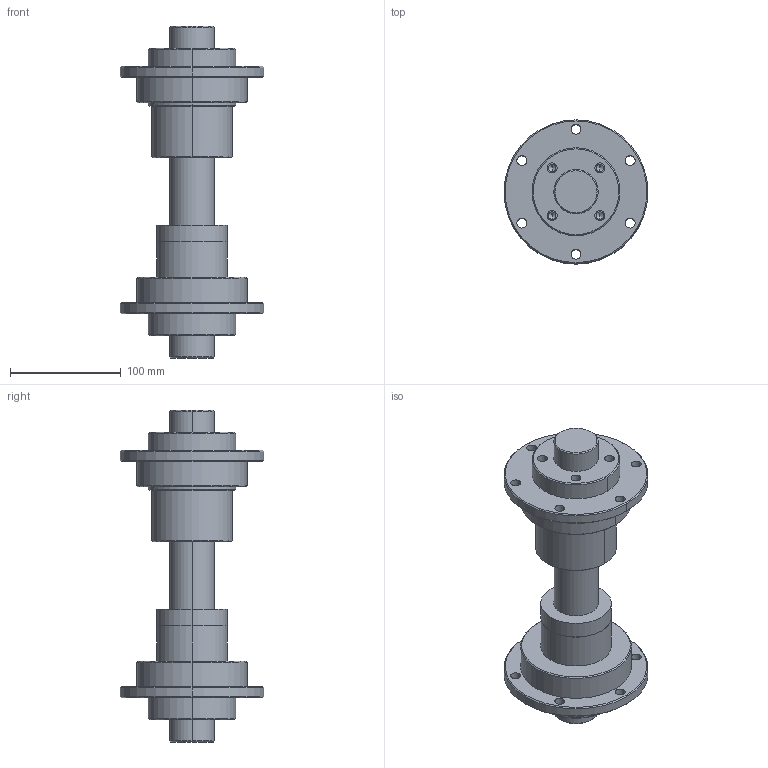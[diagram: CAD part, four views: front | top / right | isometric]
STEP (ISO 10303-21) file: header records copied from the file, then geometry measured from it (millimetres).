
FILE_DESCRIPTION (( 'STEP AP203' ), '1' );
FILE_NAME ('RSSY4040.STEP', '2014-11-13T05:22:41', ( '' ), ( '' ), 'SwSTEP 2.0', 'SolidWorks 2014', '' );
FILE_SCHEMA (( 'CONFIG_CONTROL_DESIGN' ));
Length unit declared in the file: millimetre
Products named in the file (4): SC40; RFSY4040; RLSF40; RSSY4040
Assembly tree (3 placements, depth 2):
  RSSY4040
    SC40
    RFSY4040
    RLSF40
Bounding box: 130 x 130 x 300 mm (x, y, z)
Volume: 1274731.8 mm3; surface area: 180072 mm2
Topology: 4 solids, 4 shells, 175 faces, 418 edges, 254 vertices
Faces by surface type: cylinder 110, cone 44, plane 21
Entity records: 5476 total; most frequent: DIRECTION 1004, CARTESIAN_POINT 833, ORIENTED_EDGE 796, AXIS2_PLACEMENT_3D 425, EDGE_CURVE 398, VERTEX_POINT 254, CIRCLE 244, EDGE_LOOP 228
